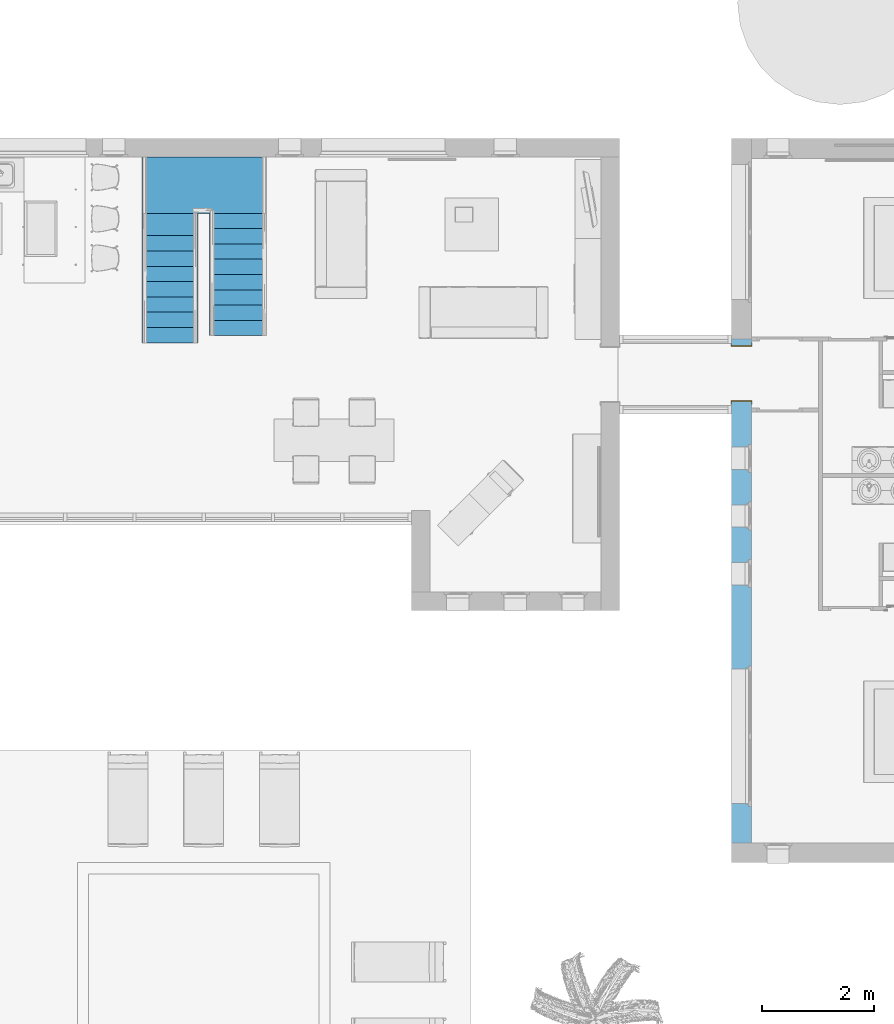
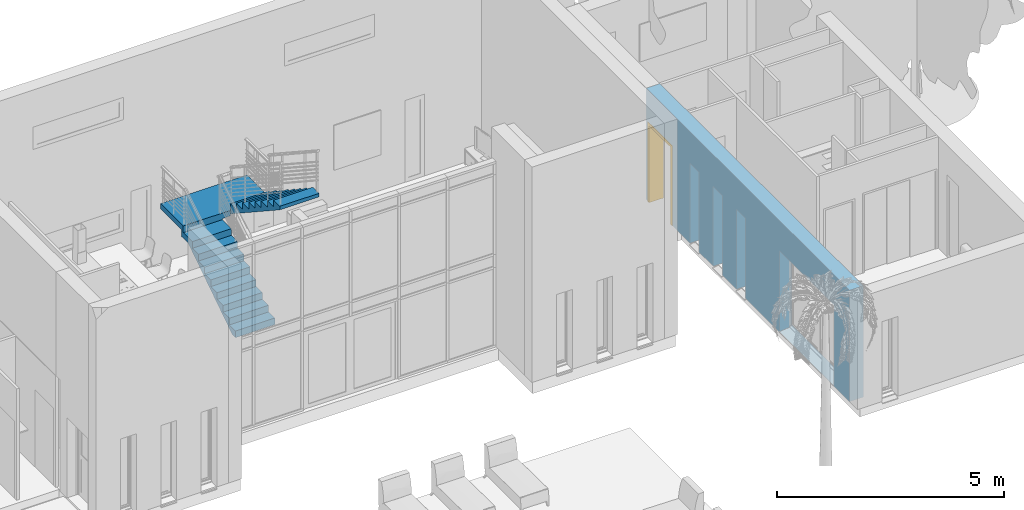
# One storey, part 18 of 40: 1 door, 1 stair flight, 5 openings, 1 element without a shape of its own, plus 1 element that does not belong to this part.
"""IFC2X3 building model written with IfcOpenShell, lengths in metres."""

from ifc_helpers import new_model, entity, si_unit, converted_unit, derived_unit, direction, frame, frame_2d, origin, place, context, subcontext, project, spatial, rectangle, extrude, faceted_brep, source, transform, mapped, material, layer, layer_set, layer_usage, type_object, type_shapes, element, fill, aggregate, save


model = new_model("IFC2X3")

# Units and contexts
model_context = context("Model", 3, precision=1e-05, world=origin(), true_north=direction((6.12303176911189e-17, 1.0)))
body_context = subcontext(model_context, "Body", "Model", "MODEL_VIEW")
ifc_project = project(units=[si_unit("LENGTHUNIT", "METRE"), si_unit("AREAUNIT", "SQUARE_METRE"), si_unit("VOLUMEUNIT", "CUBIC_METRE"), converted_unit("PLANEANGLEUNIT", "DEGREE", entity("IfcRatioMeasure", 0.0174532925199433), si_unit("PLANEANGLEUNIT", "RADIAN"), dimensions=[0, 0, 0, 0, 0, 0, 0]), si_unit("MASSUNIT", "GRAM", prefix="KILO"), derived_unit("MASSDENSITYUNIT", [(si_unit("MASSUNIT", "GRAM", prefix="KILO"), 1), (si_unit("LENGTHUNIT", "METRE"), -3)]), si_unit("TIMEUNIT", "SECOND"), si_unit("FREQUENCYUNIT", "HERTZ"), si_unit("THERMODYNAMICTEMPERATUREUNIT", "DEGREE_CELSIUS"), derived_unit("THERMALTRANSMITTANCEUNIT", [(si_unit("MASSUNIT", "GRAM", prefix="KILO"), 1), (si_unit("THERMODYNAMICTEMPERATUREUNIT", "KELVIN"), -1), (si_unit("TIMEUNIT", "SECOND"), -3)]), derived_unit("VOLUMETRICFLOWRATEUNIT", [(si_unit("LENGTHUNIT", "METRE"), 3), (si_unit("TIMEUNIT", "SECOND"), -1)]), si_unit("ELECTRICCURRENTUNIT", "AMPERE"), si_unit("ELECTRICVOLTAGEUNIT", "VOLT"), si_unit("POWERUNIT", "WATT"), si_unit("FORCEUNIT", "NEWTON", prefix="KILO"), si_unit("ILLUMINANCEUNIT", "LUX"), si_unit("LUMINOUSFLUXUNIT", "LUMEN"), si_unit("LUMINOUSINTENSITYUNIT", "CANDELA"), derived_unit("USERDEFINED", [(si_unit("MASSUNIT", "GRAM", prefix="KILO"), -1), (si_unit("LENGTHUNIT", "METRE"), -2), (si_unit("TIMEUNIT", "SECOND"), 3), (si_unit("LUMINOUSFLUXUNIT", "LUMEN"), 1)]), derived_unit("LINEARVELOCITYUNIT", [(si_unit("LENGTHUNIT", "METRE"), 1), (si_unit("TIMEUNIT", "SECOND"), -1)]), si_unit("PRESSUREUNIT", "PASCAL"), derived_unit("USERDEFINED", [(si_unit("LENGTHUNIT", "METRE"), -2), (si_unit("MASSUNIT", "GRAM", prefix="KILO"), 1), (si_unit("TIMEUNIT", "SECOND"), -2)])], contexts=[model_context])

# Site, building, storey
site_placement = place(None, origin())
site = spatial("IfcSite", under=ifc_project, at=site_placement, Name="Surface", CompositionType="ELEMENT")
building_placement = place(site_placement, origin())
building = spatial("IfcBuilding", under=site, at=building_placement, CompositionType="ELEMENT")
storey_placement = place(building_placement, origin())
storey = spatial("IfcBuildingStorey", under=building, at=storey_placement, Name="RDC", CompositionType="ELEMENT", Elevation=-1.0941605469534e-13)

# Wall, openings, door
ifc_material_1 = material(Name="Bardage bois")
ifc_layer_1 = layer(ifc_material_1, 0.01)
ifc_material_2 = material(Name="Maçonnerie - Isolant")
ifc_layer_2 = layer(ifc_material_2, 0.12)
ifc_material_3 = material(Name="Blocs béton manufacturés")
ifc_layer_3 = layer(ifc_material_3, 0.2)
ifc_material_4 = material(Name="Par défaut")
ifc_layer_4 = layer(ifc_material_4, 0.01)
ifc_material_5 = material(Name="Plâtre")
ifc_layer_5 = layer(ifc_material_5, 0.01)
ifc_layer_set = layer_set([ifc_layer_1, ifc_layer_2, ifc_layer_3, ifc_layer_4, ifc_layer_5], Name="Mur de base:M8 Ext. Bois 2 + Isolant 12 +  BBMC 20 + vide 1 + ba13")
ifc_layer_usage = layer_usage(ifc_layer_set, "AXIS2", "NEGATIVE", 0.175)
wall_type = type_object("IfcWallType", Name="Mur de base:M8 Ext. Bois 2 + Isolant 12 +  BBMC 20 + vide 1 + ba13", PredefinedType="STANDARD", material=ifc_layer_set)
wall_placement = place(storey_placement, frame((11.9725111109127, -4.66298932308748, 0.0), z_axis=(0.0, 0.0, 1.0), x_axis=(0.0, 1.0, 0.0)))
wall = element("IfcWallStandardCase", 1, at=wall_placement, inside=storey, type_object=wall_type, material=ifc_layer_usage, Name="Mur de base:M8 Ext. Bois 2 + Isolant 12 +  BBMC 20 + vide 1 + ba13", ObjectType="Mur de base:M8 Ext. Bois 2 + Isolant 12 +  BBMC 20 + vide 1 + ba13", context=body_context, shape_type="SweptSolid", body=[
    extrude(rectangle(XDim=8.97499999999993, YDim=0.349999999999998, at=frame_2d((4.48749999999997, -1.94289029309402e-16), x_axis=(-1.0, 0.0))), origin(), (0.0, 0.0, 1.0), 2.99999999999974),
])
opening_1_placement = place(wall_placement, frame((7.85749999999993, -0.175000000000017, 0.0)))
opening_1 = element("IfcOpeningElement", 2, at=opening_1_placement, cuts=wall, Name="Ouverture en rectangle:Ouverture en rectangle:1", ObjectType="Opening", context=body_context, shape_type="SweptSolid", body=[
    extrude(rectangle(XDim=2.09999999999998, YDim=1.0, at=frame_2d((1.04999999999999, 0.5), x_axis=(1.0, 0.0))), frame((0.0, 0.0, 0.0), z_axis=(0.0, 1.0, 0.0), x_axis=(0.0, 0.0, 1.0)), (0.0, 0.0, 1.0), 0.35),
])
opening_2_placement = place(wall_placement, frame((6.59499999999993, 0.499999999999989, -0.0775370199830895), z_axis=(0.0, 0.0, 1.0), x_axis=(0.0, -1.0, 0.0)))
element("IfcOpeningElement", 3, at=opening_2_placement, cuts=wall, Name="Mur de base:M8 Ext. Bois 2 + Isolant 12 +  BBMC 20 + vide 1 + ba13", ObjectType="Opening", context=body_context, shape_type="Brep", body=[
    faceted_brep([(0.595000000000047, 0.0499999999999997, 0.077537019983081), (0.574999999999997, 0.0499999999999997, 0.077537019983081), (0.574999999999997, 0.0499999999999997, 2.22753701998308), (0.0, 0.0500000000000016, 2.22753701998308), (0.0, 0.0500000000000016, 0.0), (0.595000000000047, 0.0499999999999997, 0.062537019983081), (1.0, 0.449999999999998, 0.077537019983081), (0.675000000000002, 0.45, 0.077537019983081), (0.675000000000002, 0.45, 2.22753701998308), (1.0, 0.449999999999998, 2.22753701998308), (1.0, 0.0499999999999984, 0.077537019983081), (0.675, 0.0499999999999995, 0.077537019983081), (0.675, 0.0, 0.077537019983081), (0.625000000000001, 0.0, 0.077537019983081), (0.625000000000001, 0.0399999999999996, 0.077537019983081), (0.574999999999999, 0.0399999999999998, 0.077537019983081), (0.595000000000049, 0.45, 0.077537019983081), (0.574999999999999, 0.45, 0.0775370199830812), (0.574999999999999, 0.46, 0.077537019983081), (0.625000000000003, 0.46, 0.077537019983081), (0.625000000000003, 0.499999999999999, 0.077537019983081), (0.675000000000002, 0.499999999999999, 0.077537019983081), (1.0, 0.0499999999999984, 2.22753701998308), (0.574999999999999, 0.45, 2.22753701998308), (0.0, 0.450000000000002, 2.22753701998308), (0.0, 0.450000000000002, 0.0), (0.595000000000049, 0.45, 0.062537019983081), (0.675, 0.0, 2.27753701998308), (0.625000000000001, 0.0, 2.27753701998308), (0.625000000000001, 0.499999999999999, 2.27753701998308), (0.625000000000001, 0.46, 2.23753701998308), (0.625000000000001, 0.0399999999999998, 2.23753701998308), (0.574999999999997, 0.0399999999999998, 2.23753701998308), (0.574999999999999, 0.46, 2.23753701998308), (0.675, 0.0499999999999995, 2.22753701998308), (0.675, 0.499999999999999, 2.27753701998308)], [[[0, 1, 2, 3, 4, 5]], [[6, 7, 8, 9]], [[10, 11, 12, 13, 14, 15, 1, 0, 16, 17, 18, 19, 20, 21, 7, 6]], [[10, 6, 9, 22]], [[3, 2, 23, 24]], [[3, 24, 25, 4]], [[4, 25, 26, 5]], [[5, 26, 16, 0]], [[12, 27, 28, 13]], [[13, 28, 29, 20, 19, 30, 31, 14]], [[14, 31, 32, 15]], [[15, 32, 33, 18, 17, 23, 2, 1]], [[11, 34, 8, 7, 21, 35, 27, 12]], [[27, 35, 29, 28]], [[30, 33, 32, 31]], [[29, 35, 21, 20]], [[19, 18, 33, 30]], [[9, 8, 34, 22]], [[24, 23, 17, 16, 26, 25]], [[22, 34, 11, 10]]]),
])
opening_3_placement = place(wall_placement, frame((5.56999999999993, 0.499999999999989, -0.0775370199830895), z_axis=(0.0, 0.0, 1.0), x_axis=(0.0, -1.0, 0.0)))
element("IfcOpeningElement", 4, at=opening_3_placement, cuts=wall, Name="Mur de base:M8 Ext. Bois 2 + Isolant 12 +  BBMC 20 + vide 1 + ba13", ObjectType="Opening", context=body_context, shape_type="Brep", body=[
    faceted_brep([(0.595000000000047, 0.0499999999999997, 0.077537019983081), (0.574999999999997, 0.0499999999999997, 0.077537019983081), (0.574999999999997, 0.0499999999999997, 2.22753701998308), (0.0, 0.0500000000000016, 2.22753701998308), (0.0, 0.0500000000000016, 0.0), (0.595000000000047, 0.0499999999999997, 0.062537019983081), (1.0, 0.449999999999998, 0.077537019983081), (0.675000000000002, 0.45, 0.077537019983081), (0.675000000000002, 0.45, 2.22753701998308), (1.0, 0.449999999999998, 2.22753701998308), (1.0, 0.0499999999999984, 0.077537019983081), (0.675, 0.0499999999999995, 0.077537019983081), (0.675, 0.0, 0.077537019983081), (0.625000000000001, 0.0, 0.077537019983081), (0.625000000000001, 0.0399999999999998, 0.077537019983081), (0.574999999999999, 0.04, 0.077537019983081), (0.595000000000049, 0.45, 0.077537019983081), (0.574999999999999, 0.45, 0.0775370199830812), (0.574999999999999, 0.46, 0.077537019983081), (0.625000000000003, 0.46, 0.077537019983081), (0.625000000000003, 0.499999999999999, 0.077537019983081), (0.675000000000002, 0.499999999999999, 0.077537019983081), (1.0, 0.0499999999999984, 2.22753701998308), (0.574999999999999, 0.45, 2.22753701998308), (0.0, 0.450000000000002, 2.22753701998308), (0.0, 0.450000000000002, 0.0), (0.595000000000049, 0.45, 0.062537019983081), (0.675, 0.0, 2.27753701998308), (0.625000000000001, 0.0, 2.27753701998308), (0.625000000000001, 0.499999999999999, 2.27753701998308), (0.625000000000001, 0.46, 2.23753701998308), (0.625000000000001, 0.04, 2.23753701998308), (0.574999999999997, 0.0399999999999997, 2.23753701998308), (0.574999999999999, 0.46, 2.23753701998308), (0.675, 0.0499999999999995, 2.22753701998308), (0.675, 0.499999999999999, 2.27753701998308)], [[[0, 1, 2, 3, 4, 5]], [[6, 7, 8, 9]], [[10, 11, 12, 13, 14, 15, 1, 0, 16, 17, 18, 19, 20, 21, 7, 6]], [[10, 6, 9, 22]], [[3, 2, 23, 24]], [[3, 24, 25, 4]], [[4, 25, 26, 5]], [[5, 26, 16, 0]], [[12, 27, 28, 13]], [[13, 28, 29, 20, 19, 30, 31, 14]], [[14, 31, 32, 15]], [[15, 32, 33, 18, 17, 23, 2, 1]], [[11, 34, 8, 7, 21, 35, 27, 12]], [[27, 35, 29, 28]], [[30, 33, 32, 31]], [[29, 35, 21, 20]], [[19, 18, 33, 30]], [[9, 8, 34, 22]], [[24, 23, 17, 16, 26, 25]], [[22, 34, 11, 10]]]),
])
opening_4_placement = place(wall_placement, frame((4.54499999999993, 0.499999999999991, -0.0775370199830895), z_axis=(0.0, 0.0, 1.0), x_axis=(0.0, -1.0, 0.0)))
element("IfcOpeningElement", 5, at=opening_4_placement, cuts=wall, Name="Mur de base:M8 Ext. Bois 2 + Isolant 12 +  BBMC 20 + vide 1 + ba13", ObjectType="Opening", context=body_context, shape_type="Brep", body=[
    faceted_brep([(0.595000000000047, 0.0499999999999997, 0.077537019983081), (0.574999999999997, 0.0499999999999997, 0.077537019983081), (0.574999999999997, 0.0499999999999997, 2.22753701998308), (0.0, 0.0500000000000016, 2.22753701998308), (0.0, 0.0500000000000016, 0.0), (0.595000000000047, 0.0499999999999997, 0.062537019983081), (1.0, 0.449999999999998, 0.077537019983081), (0.675000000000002, 0.45, 0.077537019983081), (0.675000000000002, 0.45, 2.22753701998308), (1.0, 0.449999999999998, 2.22753701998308), (1.0, 0.0499999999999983, 0.077537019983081), (0.675, 0.0499999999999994, 0.077537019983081), (0.675, 0.0, 0.077537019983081), (0.625000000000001, 0.0, 0.077537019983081), (0.625000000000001, 0.0399999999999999, 0.077537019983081), (0.574999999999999, 0.04, 0.077537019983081), (0.595000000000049, 0.45, 0.077537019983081), (0.574999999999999, 0.45, 0.0775370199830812), (0.574999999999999, 0.46, 0.077537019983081), (0.625000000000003, 0.46, 0.077537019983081), (0.625000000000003, 0.499999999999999, 0.077537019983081), (0.675000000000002, 0.499999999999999, 0.077537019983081), (1.0, 0.0499999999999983, 2.22753701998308), (0.574999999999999, 0.45, 2.22753701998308), (0.0, 0.450000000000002, 2.22753701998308), (0.0, 0.450000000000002, 0.0), (0.595000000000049, 0.45, 0.062537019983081), (0.675, 0.0, 2.27753701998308), (0.625000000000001, 0.0, 2.27753701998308), (0.625000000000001, 0.499999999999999, 2.27753701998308), (0.625000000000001, 0.46, 2.23753701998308), (0.625000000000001, 0.04, 2.23753701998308), (0.574999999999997, 0.0399999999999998, 2.23753701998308), (0.574999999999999, 0.46, 2.23753701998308), (0.675, 0.0499999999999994, 2.22753701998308), (0.675, 0.499999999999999, 2.27753701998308)], [[[0, 1, 2, 3, 4, 5]], [[6, 7, 8, 9]], [[10, 11, 12, 13, 14, 15, 1, 0, 16, 17, 18, 19, 20, 21, 7, 6]], [[10, 6, 9, 22]], [[3, 2, 23, 24]], [[3, 24, 25, 4]], [[4, 25, 26, 5]], [[5, 26, 16, 0]], [[12, 27, 28, 13]], [[13, 28, 29, 20, 19, 30, 31, 14]], [[14, 31, 32, 15]], [[15, 32, 33, 18, 17, 23, 2, 1]], [[11, 34, 8, 7, 21, 35, 27, 12]], [[27, 35, 29, 28]], [[30, 33, 32, 31]], [[29, 35, 21, 20]], [[19, 18, 33, 30]], [[9, 8, 34, 22]], [[24, 23, 17, 16, 26, 25]], [[22, 34, 11, 10]]]),
])
opening_5_placement = place(wall_placement, frame((0.650000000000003, 0.499999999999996, 0.0), z_axis=(0.0, 0.0, 1.0), x_axis=(0.0, -1.0, 0.0)))
element("IfcOpeningElement", 6, at=opening_5_placement, cuts=wall, Name="Mur de base:M8 Ext. Bois 2 + Isolant 12 +  BBMC 20 + vide 1 + ba13", ObjectType="Opening", context=body_context, shape_type="Brep", body=[
    faceted_brep([(0.594999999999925, 2.45, 0.0350000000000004), (0.261997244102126, 2.45, 0.0), (0.0, 2.45, 0.0), (0.0, 2.45, 2.185), (0.575000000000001, 2.45, 2.185), (0.575000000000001, 2.45, 0.0350000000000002), (1.0, 0.0500000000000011, 0.0350000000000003), (1.0, 0.0500000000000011, 2.185), (0.674999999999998, 0.0500000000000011, 2.185), (0.674999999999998, 0.0500000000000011, 0.0350000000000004), (1.0, 2.45, 0.0350000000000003), (0.674999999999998, 0.0, 0.0350000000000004), (0.624999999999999, 0.0, 0.0350000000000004), (0.624999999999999, 0.0399999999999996, 0.0350000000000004), (0.574999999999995, 0.0400000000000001, 0.0350000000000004), (0.574999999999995, 0.05, 0.0350000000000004), (0.594999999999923, 0.0500000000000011, 0.0350000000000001), (0.574999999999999, 2.46, 0.0350000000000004), (0.625000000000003, 2.46, 0.0350000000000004), (0.625000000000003, 2.5, 0.0350000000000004), (0.675000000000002, 2.5, 0.0350000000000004), (0.675000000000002, 2.45, 0.0350000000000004), (1.0, 2.45, 2.185), (0.675000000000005, 2.45, 2.185), (0.0, 0.0500000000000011, 0.0), (0.0, 0.0500000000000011, 2.185), (0.261997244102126, 0.0500000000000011, 0.0), (0.625000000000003, 2.5, 2.235), (0.675000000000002, 2.5, 2.235), (0.625000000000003, 2.46, 2.195), (0.624999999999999, 0.0400000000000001, 2.195), (0.624999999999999, 0.0, 2.235), (0.575000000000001, 2.46, 2.195), (0.574999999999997, 0.0500000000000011, 2.185), (0.574999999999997, 0.0400000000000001, 2.195), (0.674999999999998, 0.0, 2.235)], [[[0, 1, 2, 3, 4, 5]], [[6, 7, 8, 9]], [[10, 6, 9, 11, 12, 13, 14, 15, 16, 0, 5, 17, 18, 19, 20, 21]], [[10, 22, 7, 6]], [[7, 22, 23, 8]], [[3, 2, 24, 25]], [[2, 1, 26, 24]], [[1, 0, 16, 26]], [[20, 19, 27, 28]], [[19, 18, 29, 30, 13, 12, 31, 27]], [[18, 17, 32, 29]], [[17, 5, 4, 33, 15, 14, 34, 32]], [[21, 20, 28, 35, 11, 9, 8, 23]], [[28, 27, 31, 35]], [[30, 29, 32, 34]], [[31, 12, 11, 35]], [[13, 30, 34, 14]], [[3, 25, 33, 4]], [[25, 24, 26, 16, 15, 33]], [[22, 10, 21, 23]]]),
])
ifc_material_6 = material(Name="Bois - Chêne")
door_style = type_object("IfcDoorStyle", Name="Ouverture en rectangle", ConstructionType="NOTDEFINED", OperationType="NOTDEFINED", ParameterTakesPrecedence=False, Sizeable=False, material=ifc_material_6)
shared_shape = source(origin(), body_context, "Body", "Brep", [
    faceted_brep([(0.0, 0.0, 0.0), (0.0, 0.35000000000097, 0.0), (-0.0499999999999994, 0.35000000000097, 0.0), (-0.0499999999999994, 0.36000000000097, 0.0), (0.0200000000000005, 0.36000000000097, 0.0), (0.0200000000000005, -0.00999999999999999, 0.0), (-0.0499999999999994, -0.00999999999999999, 0.0), (-0.0499999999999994, 0.0, 0.0), (0.0, 0.0, 2.09999999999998), (0.0, 0.35000000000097, 2.09999999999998), (1.0, 0.35000000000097, 2.09999999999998), (1.0, 0.35000000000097, 0.0), (1.05, 0.35000000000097, 0.0), (1.05, 0.35000000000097, 2.14999999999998), (-0.0499999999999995, 0.35000000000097, 2.14999999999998), (-0.0499999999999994, 0.36000000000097, 2.14999999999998), (1.05, 0.36000000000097, 2.14999999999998), (1.05, 0.36000000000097, 0.0), (0.98, 0.36000000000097, 0.0), (0.979999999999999, 0.36000000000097, 2.07999999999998), (0.0200000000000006, 0.36000000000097, 2.07999999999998), (0.0200000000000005, -0.00999999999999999, 2.07999999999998), (0.979999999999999, -0.00999999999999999, 2.07999999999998), (0.979999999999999, -0.00999999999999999, 0.0), (1.05, -0.00999999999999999, 0.0), (1.05, -0.00999999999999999, 2.14999999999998), (-0.0499999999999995, -0.00999999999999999, 2.14999999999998), (-0.0499999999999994, 0.0, 2.14999999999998), (1.05, 0.0, 2.14999999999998), (1.05, 0.0, 0.0), (1.0, 0.0, 0.0), (1.0, 0.0, 2.09999999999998)], [[[0, 1, 2, 3, 4, 5, 6, 7]], [[1, 0, 8, 9]], [[2, 1, 9, 10, 11, 12, 13, 14]], [[3, 2, 14, 15]], [[4, 3, 15, 16, 17, 18, 19, 20]], [[5, 4, 20, 21]], [[6, 5, 21, 22, 23, 24, 25, 26]], [[7, 6, 26, 27]], [[0, 7, 27, 28, 29, 30, 31, 8]], [[10, 31, 30, 11]], [[30, 29, 24, 23, 18, 17, 12, 11]], [[16, 13, 12, 17]], [[22, 19, 18, 23]], [[28, 25, 24, 29]], [[9, 8, 31, 10]], [[15, 14, 13, 16]], [[21, 20, 19, 22]], [[27, 26, 25, 28]]]),
])
type_shapes(door_style, [shared_shape])
door_placement = place(opening_1_placement, origin())
door = element("IfcDoor", 7, at=door_placement, inside=storey, type_object=door_style, material=ifc_material_6, Name="Ouverture en rectangle:Ouverture en rectangle", ObjectType="Ouverture en rectangle", OverallHeight=2.09999999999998, OverallWidth=1.0, context=body_context, shape_type="MappedRepresentation", body=[
    mapped(shared_shape, transform((0.0, 0.0, 0.0), scale=1.0)),
])
fill(opening_1, door)

# Stair, stair flight
stair_placement = place(storey_placement, origin())
stair = element("IfcStair", 8, at=stair_placement, inside=storey, Name="Escalier:Monobloc", ObjectType="Escalier:Monobloc", ShapeType="NOTDEFINED")
ifc_material_7 = material(Name="Maçonnerie - Béton")
stair_flight_placement = place(stair_placement, origin())
stair_flight = element("IfcStairFlight", 9, at=stair_flight_placement, material=ifc_material_7, Name="Escalier:Monobloc:1", ObjectType="Escalier:Monobloc", NumberOfRiser=9, NumberOfTreads=8, RiserHeight=0.58669136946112, TreadLength=0.945291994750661, context=body_context, shape_type="Brep", body=[
    faceted_brep([(1.29751111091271, 6.33813861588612, 1.280588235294), (2.29751111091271, 6.33813861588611, 1.280588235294), (2.2975111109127, 4.38776903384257, 0.0), (1.2975111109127, 4.38776903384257, 0.0), (1.29751111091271, 6.62301067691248, 1.280588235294), (2.29751111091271, 6.62301067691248, 1.280588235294), (1.29751111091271, 6.54701067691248, 1.280588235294), (1.29751111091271, 6.62301067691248, 1.45941176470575), (2.29751111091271, 6.62301067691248, 1.45941176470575), (2.49751111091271, 6.62970626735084, 1.45941176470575), (2.49751111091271, 6.54701067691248, 1.45941176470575), (2.29751111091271, 6.54701067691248, 1.45941176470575), (1.29751111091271, 7.54701067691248, 1.45941176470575), (3.49751111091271, 7.54701067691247, 1.45941176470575), (3.49751111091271, 6.62970626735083, 1.45941176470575), (2.49751111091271, 6.54701067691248, 1.51370865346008), (3.4975111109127, 4.36818714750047, 2.94429688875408), (2.4975111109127, 4.36818714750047, 2.94429688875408), (1.2975111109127, 4.51436361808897, 0.178823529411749), (1.2975111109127, 4.24201067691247, 0.178823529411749), (2.2975111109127, 4.24201067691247, 0.178823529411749), (2.2975111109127, 4.51436361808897, 0.178823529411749), (1.2975111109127, 4.51436361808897, 0.357647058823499), (1.2975111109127, 4.78671655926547, 0.357647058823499), (1.2975111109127, 4.78671655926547, 0.536470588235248), (1.29751111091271, 5.05906950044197, 0.536470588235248), (1.29751111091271, 5.05906950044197, 0.715294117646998), (1.29751111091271, 5.33142244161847, 0.715294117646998), (1.29751111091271, 5.33142244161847, 0.894117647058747), (1.29751111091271, 5.60377538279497, 0.894117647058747), (1.29751111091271, 5.60377538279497, 1.0729411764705), (1.29751111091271, 5.87612832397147, 1.0729411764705), (1.29751111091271, 5.87612832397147, 1.25176470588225), (1.29751111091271, 6.14848126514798, 1.25176470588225), (1.29751111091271, 6.14848126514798, 1.430588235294), (1.29751111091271, 6.54701067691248, 1.430588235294), (1.29751111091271, 6.54701067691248, 1.45941176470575), (1.29751111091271, 6.54701067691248, 1.60941176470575), (1.29751111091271, 7.54701067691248, 1.60941176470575), (1.2975111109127, 4.24201067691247, 0.0), (2.2975111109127, 4.24201067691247, 0.0), (2.29751111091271, 6.54701067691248, 1.430588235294), (2.29751111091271, 6.14848126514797, 1.430588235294), (2.29751111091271, 6.14848126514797, 1.25176470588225), (2.29751111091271, 5.87612832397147, 1.25176470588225), (2.29751111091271, 5.87612832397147, 1.0729411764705), (2.29751111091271, 5.60377538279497, 1.0729411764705), (2.29751111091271, 5.60377538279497, 0.894117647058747), (2.29751111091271, 5.33142244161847, 0.894117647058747), (2.29751111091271, 5.33142244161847, 0.715294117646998), (2.29751111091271, 5.05906950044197, 0.715294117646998), (2.29751111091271, 5.05906950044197, 0.536470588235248), (2.2975111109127, 4.78671655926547, 0.536470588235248), (2.2975111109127, 4.78671655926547, 0.357647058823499), (2.2975111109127, 4.51436361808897, 0.357647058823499), (2.29751111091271, 6.54701067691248, 1.60941176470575), (2.49751111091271, 6.54701067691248, 1.60941176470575), (3.49751111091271, 6.54701067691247, 1.60941176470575), (3.49751111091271, 7.54701067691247, 1.60941176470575), (3.49751111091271, 6.54701067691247, 1.78823529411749), (3.49751111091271, 6.27465773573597, 1.78823529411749), (3.49751111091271, 6.27465773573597, 1.96705882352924), (3.49751111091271, 6.00230479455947, 1.96705882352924), (3.49751111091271, 6.00230479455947, 2.14588235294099), (3.49751111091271, 5.72995185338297, 2.14588235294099), (3.49751111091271, 5.72995185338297, 2.32470588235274), (3.4975111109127, 5.45759891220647, 2.32470588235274), (3.4975111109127, 5.45759891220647, 2.50352941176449), (3.4975111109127, 5.18524597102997, 2.50352941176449), (3.4975111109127, 5.18524597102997, 2.68235294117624), (3.4975111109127, 4.91289302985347, 2.68235294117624), (3.4975111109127, 4.91289302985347, 2.86117647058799), (3.4975111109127, 4.64054008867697, 2.86117647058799), (3.4975111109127, 4.64054008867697, 3.03999999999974), (3.4975111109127, 4.36818714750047, 3.03999999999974), (2.49751111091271, 6.54701067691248, 1.78823529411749), (2.49751111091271, 6.27465773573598, 1.78823529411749), (2.4975111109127, 4.36818714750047, 3.03999999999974), (2.4975111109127, 4.64054008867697, 3.03999999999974), (2.4975111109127, 4.64054008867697, 2.86117647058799), (2.4975111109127, 4.91289302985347, 2.86117647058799), (2.4975111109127, 4.91289302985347, 2.68235294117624), (2.4975111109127, 5.18524597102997, 2.68235294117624), (2.4975111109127, 5.18524597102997, 2.50352941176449), (2.4975111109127, 5.45759891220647, 2.50352941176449), (2.4975111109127, 5.45759891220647, 2.32470588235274), (2.49751111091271, 5.72995185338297, 2.32470588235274), (2.49751111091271, 5.72995185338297, 2.14588235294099), (2.49751111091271, 6.00230479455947, 2.14588235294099), (2.49751111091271, 6.00230479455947, 1.96705882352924), (2.49751111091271, 6.27465773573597, 1.96705882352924)], [[[0, 1, 2, 3]], [[4, 5, 1, 0, 6]], [[5, 4, 7, 8]], [[9, 10, 11, 8, 7, 12, 13, 14]], [[10, 9, 15]], [[9, 14, 16, 17, 15]], [[18, 19, 20, 21]], [[19, 18, 22, 23, 24, 25, 26, 27, 28, 29, 30, 31, 32, 33, 34, 35, 36, 37, 38, 12, 7, 4, 6, 0, 3, 39]], [[20, 19, 39, 40]], [[21, 20, 40, 2, 1, 5, 8, 11, 41, 42, 43, 44, 45, 46, 47, 48, 49, 50, 51, 52, 53, 54]], [[23, 22, 54, 53]], [[18, 21, 54, 22]], [[25, 24, 52, 51]], [[24, 23, 53, 52]], [[27, 26, 50, 49]], [[26, 25, 51, 50]], [[29, 28, 48, 47]], [[28, 27, 49, 48]], [[31, 30, 46, 45]], [[30, 29, 47, 46]], [[33, 32, 44, 43]], [[32, 31, 45, 44]], [[35, 34, 42, 41]], [[34, 33, 43, 42]], [[38, 37, 55, 56, 57, 58]], [[58, 57, 59, 60, 61, 62, 63, 64, 65, 66, 67, 68, 69, 70, 71, 72, 73, 74, 16, 14, 13]], [[38, 58, 13, 12]], [[35, 41, 11, 55, 37, 36]], [[56, 55, 11, 10, 15]], [[60, 59, 75, 76]], [[57, 56, 75, 59]], [[76, 75, 56, 15, 17, 77, 78, 79, 80, 81, 82, 83, 84, 85, 86, 87, 88, 89, 90]], [[62, 61, 90, 89]], [[61, 60, 76, 90]], [[64, 63, 88, 87]], [[63, 62, 89, 88]], [[66, 65, 86, 85]], [[65, 64, 87, 86]], [[68, 67, 84, 83]], [[67, 66, 85, 84]], [[70, 69, 82, 81]], [[69, 68, 83, 82]], [[72, 71, 80, 79]], [[71, 70, 81, 80]], [[74, 73, 78, 77]], [[73, 72, 79, 78]], [[74, 77, 17, 16]], [[40, 39, 3, 2]]]),
])
aggregate(stair, [stair_flight])

save(model, "model.ifc")
